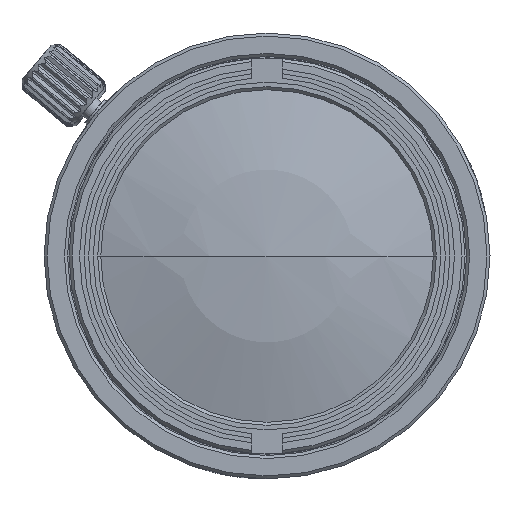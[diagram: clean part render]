
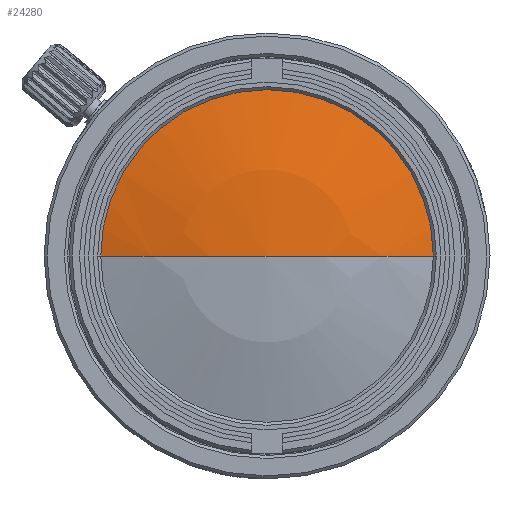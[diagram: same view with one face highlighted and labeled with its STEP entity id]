
A CAD part, left-side view. The second image highlights one B-rep face of the part: STEP entity #24280.
In plain terms, the highlighted spherical face has radius 37.593 mm.
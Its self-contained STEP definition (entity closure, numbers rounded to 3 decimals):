
#3964=CARTESIAN_POINT('',(37.593,0.,0.));
#3965=DIRECTION('',(0.,0.,-1.));
#3966=DIRECTION('',(-1.,0.,0.));
#3967=AXIS2_PLACEMENT_3D('',#3964,#3965,#3966);
#3969=CARTESIAN_POINT('',(1.739,0.,0.));
#3970=DIRECTION('',(1.,0.,0.));
#3971=DIRECTION('',(0.,1.,0.));
#3972=AXIS2_PLACEMENT_3D('',#3969,#3970,#3971);
#3974=CARTESIAN_POINT('',(37.593,0.,0.));
#3975=DIRECTION('',(0.,0.,1.));
#3976=DIRECTION('',(-1.,0.,0.));
#3977=AXIS2_PLACEMENT_3D('',#3974,#3975,#3976);
#19053=CARTESIAN_POINT('',(1.739,11.3,0.));
#19054=VERTEX_POINT('',#19053);
#19055=CARTESIAN_POINT('',(1.739,-11.3,0.));
#19056=VERTEX_POINT('',#19055);
#19057=CARTESIAN_POINT('',(0.,0.,0.));
#19058=VERTEX_POINT('',#19057);
#24268=CARTESIAN_POINT('',(37.593,0.,0.));
#24269=DIRECTION('',(-1.,0.,0.));
#24270=DIRECTION('',(0.,1.,0.));
#24271=AXIS2_PLACEMENT_3D('',#24268,#24269,#24270);
#24272=SPHERICAL_SURFACE('',#24271,37.593);
#24274=ORIENTED_EDGE('',*,*,#24273,.T.);
#24275=ORIENTED_EDGE('',*,*,#24263,.T.);
#24277=ORIENTED_EDGE('',*,*,#24276,.F.);
#24278=EDGE_LOOP('',(#24274,#24275,#24277));
#24279=FACE_OUTER_BOUND('',#24278,.F.);
#24280=ADVANCED_FACE('',(#24279),#24272,.T.);
#3968=CIRCLE('',#3967,37.593);
#3973=CIRCLE('',#3972,11.3);
#3978=CIRCLE('',#3977,37.593);
#24263=EDGE_CURVE('',#19054,#19056,#3973,.T.);
#24273=EDGE_CURVE('',#19058,#19054,#3968,.T.);
#24276=EDGE_CURVE('',#19058,#19056,#3978,.T.);
